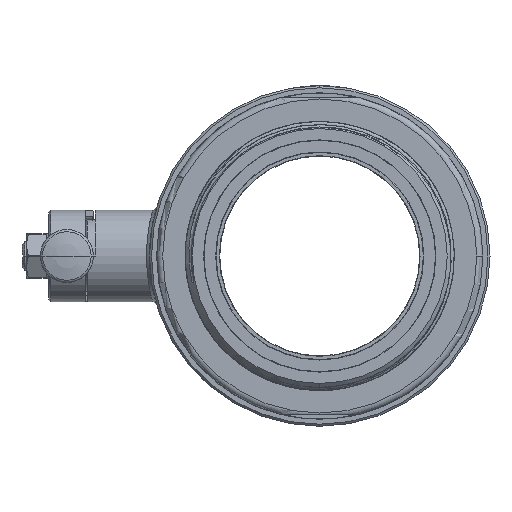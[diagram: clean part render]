
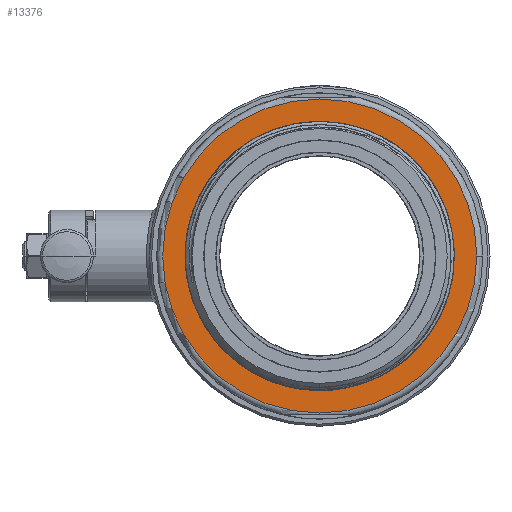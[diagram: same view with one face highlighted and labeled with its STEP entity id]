
A CAD part, left-side view. The second image highlights one B-rep face of the part: STEP entity #13376.
In plain terms, the highlighted planar face has unit normal (-1, 0, 0).
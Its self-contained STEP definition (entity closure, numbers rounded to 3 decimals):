
#11492=CARTESIAN_POINT('',(-67.,0.,0.));
#11493=DIRECTION('',(-1.,0.,0.));
#11494=DIRECTION('',(0.,0.,-1.));
#11495=AXIS2_PLACEMENT_3D('',#11492,#11493,#11494);
#11497=CARTESIAN_POINT('',(-67.,0.,0.));
#11498=DIRECTION('',(-1.,0.,0.));
#11499=DIRECTION('',(0.,0.,1.));
#11500=AXIS2_PLACEMENT_3D('',#11497,#11498,#11499);
#11551=CARTESIAN_POINT('',(-67.,0.,0.));
#11552=DIRECTION('',(-1.,0.,0.));
#11553=DIRECTION('',(0.,-1.,0.));
#11554=AXIS2_PLACEMENT_3D('',#11551,#11552,#11553);
#11847=CARTESIAN_POINT('',(-67.,0.,0.));
#11848=DIRECTION('',(1.,0.,0.));
#11849=DIRECTION('',(0.,0.,1.));
#11850=AXIS2_PLACEMENT_3D('',#11847,#11848,#11849);
#13283=CARTESIAN_POINT('',(-67.,0.001,-77.));
#13284=CARTESIAN_POINT('',(-67.,-77.,0.));
#13285=VERTEX_POINT('',#13283);
#13286=VERTEX_POINT('',#13284);
#13350=CARTESIAN_POINT('',(-67.,66.,0.));
#13351=VERTEX_POINT('',#13350);
#13352=CARTESIAN_POINT('',(-67.,0.,66.));
#13353=VERTEX_POINT('',#13352);
#13359=CARTESIAN_POINT('',(-67.,0.,0.));
#13360=DIRECTION('',(-1.,0.,0.));
#13361=DIRECTION('',(0.,1.,0.));
#13362=AXIS2_PLACEMENT_3D('',#13359,#13360,#13361);
#13363=PLANE('',#13362);
#13365=ORIENTED_EDGE('',*,*,#13364,.F.);
#13367=ORIENTED_EDGE('',*,*,#13366,.F.);
#13368=EDGE_LOOP('',(#13365,#13367));
#13369=FACE_OUTER_BOUND('',#13368,.F.);
#13371=ORIENTED_EDGE('',*,*,#13370,.T.);
#13373=ORIENTED_EDGE('',*,*,#13372,.F.);
#13374=EDGE_LOOP('',(#13371,#13373));
#13375=FACE_BOUND('',#13374,.F.);
#13376=ADVANCED_FACE('',(#13369,#13375),#13363,.T.);
#11496=CIRCLE('',#11495,77.);
#11501=CIRCLE('',#11500,66.);
#11555=CIRCLE('',#11554,77.);
#11851=CIRCLE('',#11850,66.);
#13364=EDGE_CURVE('',#13286,#13285,#11555,.T.);
#13366=EDGE_CURVE('',#13285,#13286,#11496,.T.);
#13370=EDGE_CURVE('',#13353,#13351,#11501,.T.);
#13372=EDGE_CURVE('',#13353,#13351,#11851,.T.);
